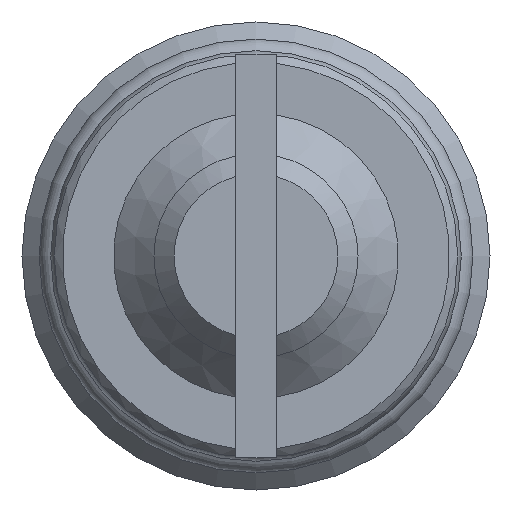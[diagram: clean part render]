
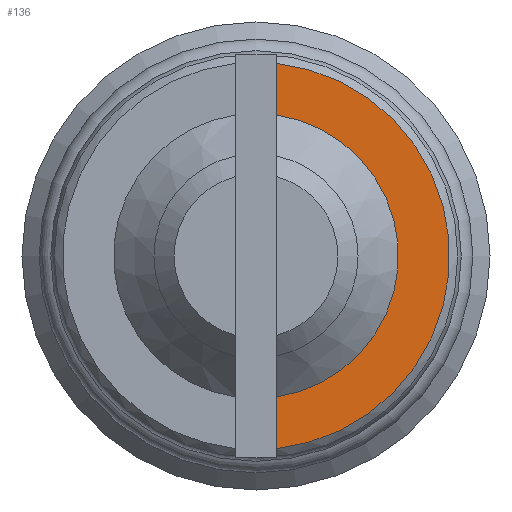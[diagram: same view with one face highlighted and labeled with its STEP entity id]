
A CAD part, left-side view. The second image highlights one B-rep face of the part: STEP entity #136.
In plain terms, the highlighted planar face has unit normal (-1, 0, 0).
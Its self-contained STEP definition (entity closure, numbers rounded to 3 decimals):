
#136 = ADVANCED_FACE( '', ( #296 ), #297, .F. );
#296 = FACE_OUTER_BOUND( '', #477, .T. );
#297 = PLANE( '', #478 );
#477 = EDGE_LOOP( '', ( #814, #815, #816, #817 ) );
#478 = AXIS2_PLACEMENT_3D( '', #818, #819, #820 );
#814 = ORIENTED_EDGE( '', *, *, #1115, .F. );
#815 = ORIENTED_EDGE( '', *, *, #1080, .T. );
#816 = ORIENTED_EDGE( '', *, *, #1023, .T. );
#817 = ORIENTED_EDGE( '', *, *, #1084, .T. );
#818 = CARTESIAN_POINT( '', ( 0., 0., 0. ) );
#819 = DIRECTION( '', ( 1., 0., 0. ) );
#820 = DIRECTION( '', ( 0., 0., -1. ) );
#1023 = EDGE_CURVE( '', #1218, #1219, #1220, .T. );
#1080 = EDGE_CURVE( '', #1168, #1218, #1306, .T. );
#1084 = EDGE_CURVE( '', #1219, #1310, #1312, .T. );
#1115 = EDGE_CURVE( '', #1168, #1310, #1353, .T. );
#1168 = VERTEX_POINT( '', #1415 );
#1218 = VERTEX_POINT( '', #1484 );
#1219 = VERTEX_POINT( '', #1485 );
#1220 = CIRCLE( '', #1486, 3.53 );
#1306 = LINE( '', #1616, #1617 );
#1310 = VERTEX_POINT( '', #1623 );
#1312 = LINE( '', #1626, #1627 );
#1353 = CIRCLE( '', #1694, 4.8 );
#1415 = CARTESIAN_POINT( '', ( 0., -0.5, 4.774 ) );
#1484 = CARTESIAN_POINT( '', ( 0., -0.5, 3.494 ) );
#1485 = CARTESIAN_POINT( '', ( 0., -0.5, -3.494 ) );
#1486 = AXIS2_PLACEMENT_3D( '', #1787, #1788, #1789 );
#1616 = CARTESIAN_POINT( '', ( 0., -0.5, 5. ) );
#1617 = VECTOR( '', #1856, 1000. );
#1623 = CARTESIAN_POINT( '', ( 0., -0.5, -4.774 ) );
#1626 = CARTESIAN_POINT( '', ( 0., -0.5, 5. ) );
#1627 = VECTOR( '', #1860, 1000. );
#1694 = AXIS2_PLACEMENT_3D( '', #1885, #1886, #1887 );
#1787 = CARTESIAN_POINT( '', ( 0., 0., 0. ) );
#1788 = DIRECTION( '', ( 1., 0., 0. ) );
#1789 = DIRECTION( '', ( 0., 0., -1. ) );
#1856 = DIRECTION( '', ( 0., 0., -1. ) );
#1860 = DIRECTION( '', ( 0., 0., -1. ) );
#1885 = CARTESIAN_POINT( '', ( 0., 0., 0. ) );
#1886 = DIRECTION( '', ( 1., 0., 0. ) );
#1887 = DIRECTION( '', ( 0., 0., -1. ) );
